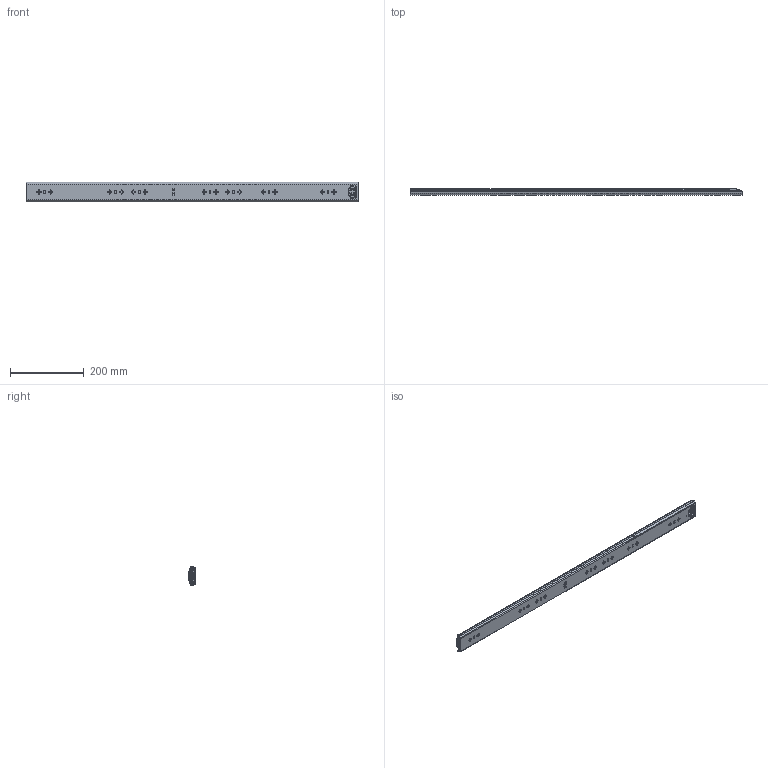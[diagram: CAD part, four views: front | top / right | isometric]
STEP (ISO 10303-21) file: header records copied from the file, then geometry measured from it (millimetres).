
FILE_DESCRIPTION((''),'2;1');
FILE_NAME('1053-02-36_ASM','2022-08-16T',('jishu015'),(''),'PRO/ENGINEER BY PARAMETRIC TECHNOLOGY CORPORATION, 2010280','PRO/ENGINEER BY PARAMETRIC TECHNOLOGY CORPORATION, 2010280','');
FILE_SCHEMA(('CONFIG_CONTROL_DESIGN'));
Products named in the file (16): 1053-02-36WAIKE; 1053WEIJIAO________; 53-WAIKEJIAO-36; 1053-02-36WAIKE_ASM; 1053ZHUTIAO-175________; 53-5-6GANZHU________; 1053ZHUTIAO-175MM_________ASM; 1053-02-18ZHONGGUI________; 53ZHIDIJIAO________; 1053-02-18ZHONGGUI_________ASM; 1053XIAOZHUJIA-14GE________; 1053XIAOZHUJIA-14GE_________ASM; 1053-02-18NEIGUI________; 53BACHA_______; 1053-02-18NEIGUI_________ASM; 1053-02-36_ASM
Assembly tree (99 placements, depth 3):
  1053-02-36_ASM
    1053-02-36WAIKE_ASM
      1053-02-36WAIKE
      1053WEIJIAO________
      53-WAIKEJIAO-36
    1053ZHUTIAO-175MM_________ASM  x2
      1053ZHUTIAO-175________
      53-5-6GANZHU________
    1053-02-18ZHONGGUI_________ASM
      1053-02-18ZHONGGUI________
      53ZHIDIJIAO________
    1053XIAOZHUJIA-14GE_________ASM
      1053XIAOZHUJIA-14GE________
      53-5-6GANZHU________  x68
    1053-02-18NEIGUI_________ASM
      1053-02-18NEIGUI________
      53BACHA_______
Bounding box: 900 x 18.7 x 53 mm (x, y, z)
Volume: 342337 mm3; surface area: 395011.3 mm2
Topology: 110 solids, 116 shells, 2771 faces, 8042 edges, 5007 vertices
Faces by surface type: cylinder 1228, plane 1068, sphere 218, cone 116, bspline 107, torus 34
Entity records: 88385 total; most frequent: CARTESIAN_POINT 21447, ORIENTED_EDGE 14084, DIRECTION 13923, EDGE_CURVE 7114, AXIS2_PLACEMENT_3D 4879, VERTEX_POINT 4597, VECTOR 4165, LINE 4165
